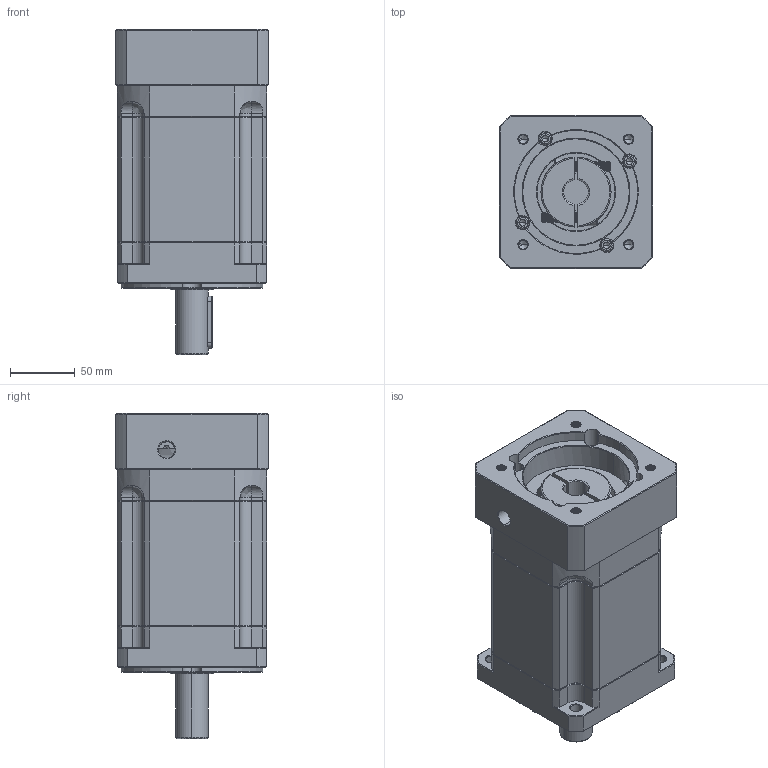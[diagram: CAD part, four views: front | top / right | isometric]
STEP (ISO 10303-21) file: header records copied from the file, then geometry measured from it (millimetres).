
FILE_DESCRIPTION (( 'STEP AP214' ), '1' );
FILE_NAME ('ZB115A-D25-L3-19-95-115-M8.step', '2023-03-02T08:58:20', ( '' ), ( 'Microsoft' ), 'SwSTEP 2.0', 'SolidWorks 2016', '' );
FILE_SCHEMA (( 'AUTOMOTIVE_DESIGN' ));
Length unit declared in the file: millimetre
Products named in the file (1): ZB115A-D25-L3-19-95-115-M8
Bounding box: 118 x 118 x 250.5 mm (x, y, z)
Volume: 2248341.7 mm3; surface area: 193134.1 mm2
Topology: 6 solids, 6 shells, 2142 faces, 5580 edges, 3527 vertices
Faces by surface type: plane 964, cylinder 450, cone 383, bspline 345
Entity records: 114476 total; most frequent: CARTESIAN_POINT 41371, ORIENTED_EDGE 11092, DIRECTION 9087, EDGE_CURVE 5546, VERTEX_POINT 3527, LINE 3389, VECTOR 3389, AXIS2_PLACEMENT_3D 2849
